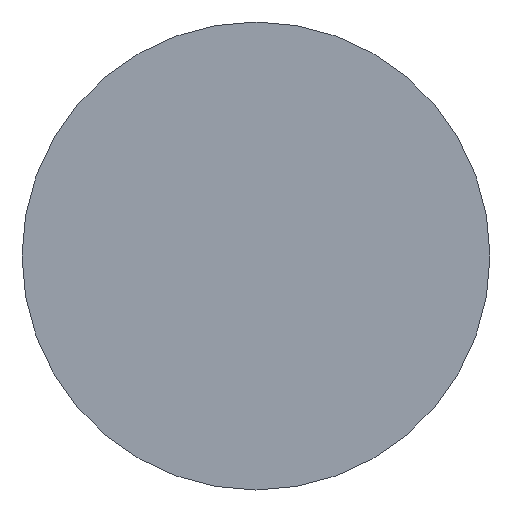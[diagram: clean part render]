
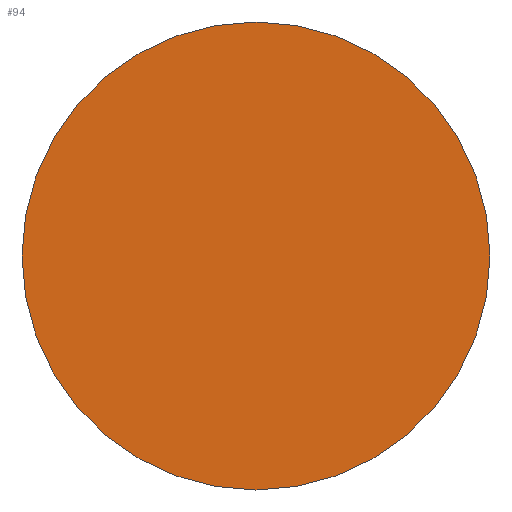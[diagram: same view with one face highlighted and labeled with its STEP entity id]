
A CAD part, left-side view. The second image highlights one B-rep face of the part: STEP entity #94.
In plain terms, the highlighted planar face has unit normal (-1, 0, 0).
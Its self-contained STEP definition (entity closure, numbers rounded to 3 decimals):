
#8 = EDGE_CURVE ( 'NONE', #89, #88, #133, .T. ) ;
#9 = EDGE_CURVE ( 'NONE', #88, #89, #128, .T. ) ;
#12 = AXIS2_PLACEMENT_3D ( 'NONE', #78, #77, #76 ) ;
#14 = AXIS2_PLACEMENT_3D ( 'NONE', #58, #54, #53 ) ;
#22 = AXIS2_PLACEMENT_3D ( 'NONE', #75, #73, #72 ) ;
#53 = DIRECTION ( 'NONE',  ( 0., 0., 1. ) ) ;
#54 = DIRECTION ( 'NONE',  ( -1., 0., 0. ) ) ;
#58 = CARTESIAN_POINT ( 'NONE',  ( -349.5, 0., 0. ) ) ;
#61 = PLANE ( 'NONE',  #14 ) ;
#63 = CARTESIAN_POINT ( 'NONE',  ( -349.5, 0., 5.5 ) ) ;
#71 = CARTESIAN_POINT ( 'NONE',  ( -349.5, 0., -5.5 ) ) ;
#72 = DIRECTION ( 'NONE',  ( 0., 0., 1. ) ) ;
#73 = DIRECTION ( 'NONE',  ( -1., 0., 0. ) ) ;
#75 = CARTESIAN_POINT ( 'NONE',  ( -349.5, 0., 0. ) ) ;
#76 = DIRECTION ( 'NONE',  ( 0., 0., 1. ) ) ;
#77 = DIRECTION ( 'NONE',  ( -1., 0., 0. ) ) ;
#78 = CARTESIAN_POINT ( 'NONE',  ( -349.5, 0., 0. ) ) ;
#88 = VERTEX_POINT ( 'NONE', #71 ) ;
#89 = VERTEX_POINT ( 'NONE', #63 ) ;
#94 = ADVANCED_FACE ( 'NONE', ( #124 ), #61, .T. ) ;
#99 = EDGE_LOOP ( 'NONE', ( #113, #122 ) ) ;
#113 = ORIENTED_EDGE ( 'NONE', *, *, #8, .T. ) ;
#122 = ORIENTED_EDGE ( 'NONE', *, *, #9, .T. ) ;
#124 = FACE_OUTER_BOUND ( 'NONE', #99, .T. ) ;
#128 = CIRCLE ( 'NONE', #22, 5.5 ) ;
#133 = CIRCLE ( 'NONE', #12, 5.5 ) ;
